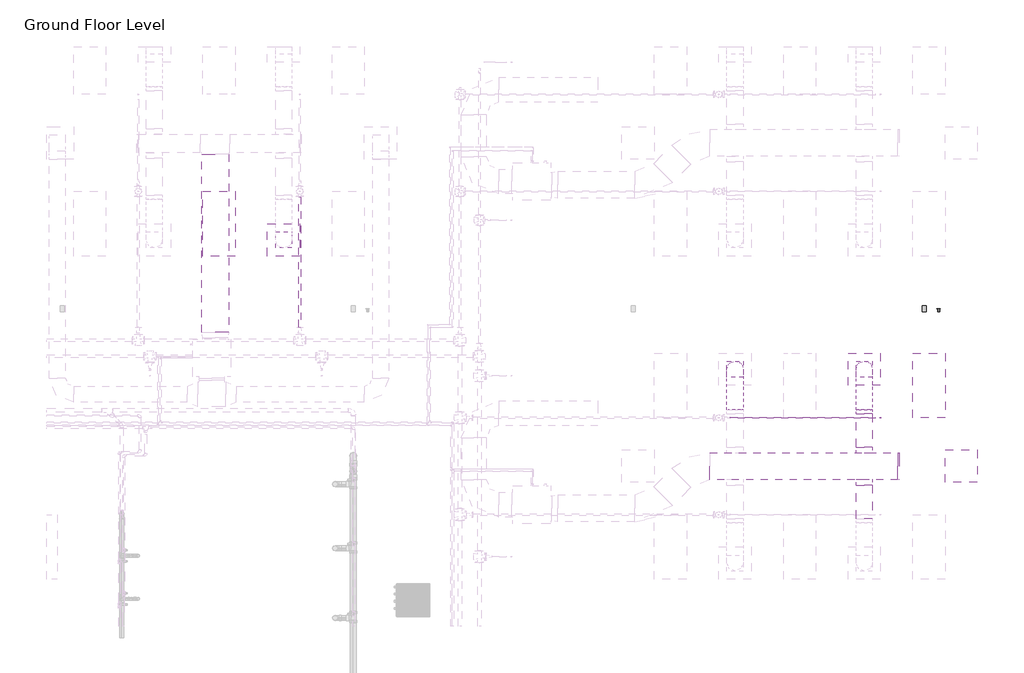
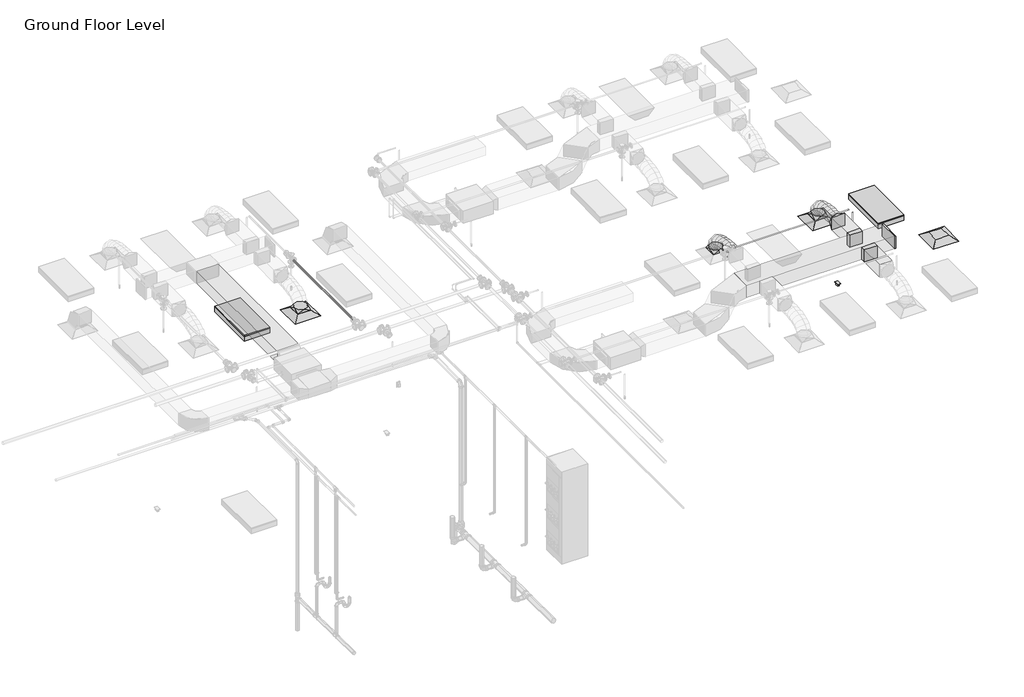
# One storey, part 70 of 74: 7 duct fittings, 6 duct segments, 3 air terminals, 3 pipe segments, 2 light fixtures, 1 fire suppression terminal, 1 proxy, 1 switching device.
"""IFC4 building model written with IfcOpenShell, lengths in millimetres."""

from ifc_helpers import new_model, si_unit, point, frame, frame_2d, origin, place, context, project, spatial, polyline, circle_curve, ellipse_curve, trimmed, segment, composite_curve, outline, extrude, transform, mapped, element, save
from ifc_brep_helpers import plane_surface, cylinder_surface, advanced_brep
from components import m_return_diffuser_600_x_600_face_300_x_300_connection_ff221211, m_duplex_receptacle_standard_10251bba, m_rectangular_endcap_standard_72d4d00d, m_rectangular_takeoff_standard_cb0ccb98, m_rectangular_takeoff_standard_2be5eba1, m_rectangular_to_round_transition_angle_45_degree_641efff0, m_sprinkler_dry_pendent_hosted_15_mm_dry_pendent_9bda8e11, m_troffer_light_parabolic_rectangular1_0600x1200mm_4_lamp_86473d4a

model = new_model("IFC4")

# Units and contexts
model_context = context("Model", 3, world=origin())
ifc_project = project(units=[si_unit("LENGTHUNIT", "METRE", prefix="MILLI")], contexts=[model_context])

# Site, building, storey
site = spatial("IfcSite", under=ifc_project)
building = spatial("IfcBuilding", under=site)
storey = spatial("IfcBuildingStorey", under=building, Name="Ground Floor Level", Elevation=900.0)

# Air terminals
placement = place(None, origin())
m_return_diffuser_600_x_600_face_300_x_300_connection_shape = m_return_diffuser_600_x_600_face_300_x_300_connection_ff221211(model_context)
element("IfcAirTerminal", 1, ObjectType="M_Return Diffuser : 600 x 600 Face 300 x 300 Connection", at=placement, inside=storey, context=model_context, shape_type="MappedRepresentation", body=[
    mapped(m_return_diffuser_600_x_600_face_300_x_300_connection_shape, transform((14942.7672395, 12735.2153534, 3650.0), x_axis=(1.0, 0.0, 0.0), y_axis=(0.0, 1.0, 0.0), z_axis=(0.0, 0.0, 1.0))),
])
element("IfcAirTerminal", 2, ObjectType="M_Supply Diffuser : 600 x 600 Face 300 x 300 Connection", at=placement, inside=storey, context=model_context, shape_type="MappedRepresentation", body=[
    mapped(m_return_diffuser_600_x_600_face_300_x_300_connection_shape, transform((2362.7672395, 16935.2153534, 3650.0), x_axis=(1.0, 0.0, 0.0), y_axis=(0.0, 1.0, 0.0), z_axis=(0.0, 0.0, 1.0))),
])
element("IfcAirTerminal", 3, ObjectType="M_Supply Diffuser : 600 x 600 Face 300 x 300 Connection", at=placement, inside=storey, context=model_context, shape_type="MappedRepresentation", body=[
    mapped(m_return_diffuser_600_x_600_face_300_x_300_connection_shape, transform((13142.7672395, 14535.2153534, 3650.0), x_axis=(1.0, 0.0, 0.0), y_axis=(0.0, 1.0, 0.0), z_axis=(0.0, 0.0, 1.0))),
])

# Proxy
m_duplex_receptacle_standard_shape = m_duplex_receptacle_standard_10251bba(model_context)
element("IfcBuildingElementProxy", 4, Name="M_Duplex Receptacle : Standard", ObjectType="M_Duplex Receptacle : Standard", at=placement, inside=storey, context=model_context, shape_type="MappedRepresentation", body=[
    mapped(m_duplex_receptacle_standard_shape, transform((14252.7672395, 15655.2153534, 1000.0), x_axis=(1.0, 0.0, 0.0), y_axis=(0.0, 1.0, 0.0), z_axis=(0.0, 0.0, 1.0))),
])

# Duct fittings
m_rectangular_endcap_standard_shape = m_rectangular_endcap_standard_72d4d00d(model_context)
element("IfcDuctFitting", 5, ObjectType="M_Rectangular Endcap : Standard", at=placement, inside=storey, context=model_context, shape_type="MappedRepresentation", body=[
    mapped(m_rectangular_endcap_standard_shape, transform((13766.7301365, 12735.2153534, 4100.0), x_axis=(1.0, 0.0, 0.0), y_axis=(0.0, 1.0, 0.0), z_axis=(0.0, 0.0, 1.0))),
])
m_rectangular_takeoff_standard_shape = m_rectangular_takeoff_standard_cb0ccb98(model_context)
element("IfcDuctFitting", 6, ObjectType="M_Rectangular Takeoff : Standard", at=placement, inside=storey, context=model_context, shape_type="MappedRepresentation", body=[
    mapped(m_rectangular_takeoff_standard_shape, transform((13142.7672395, 12985.2153534, 4100.0), x_axis=(0.0, 1.0, 0.0), y_axis=(1.0, 0.0, 0.0), z_axis=(0.0, 0.0, -1.0))),
])
m_rectangular_takeoff_standard_2_shape = m_rectangular_takeoff_standard_2be5eba1(model_context)
element("IfcDuctFitting", 7, ObjectType="M_Rectangular Takeoff : Standard", at=placement, inside=storey, context=model_context, shape_type="MappedRepresentation", body=[
    mapped(m_rectangular_takeoff_standard_2_shape, transform((13142.7672395, 12485.2153534, 4100.0), x_axis=(0.0, -1.0, 0.0), y_axis=(-1.0, 0.0, 0.0), z_axis=(0.0, 0.0, -1.0))),
])
m_rectangular_to_round_transition_angle_45_degree_shape = m_rectangular_to_round_transition_angle_45_degree_641efff0(model_context)
element("IfcDuctFitting", 8, ObjectType="M_Rectangular to Round Transition - Angle : 45 Degree", at=placement, inside=storey, context=model_context, shape_type="MappedRepresentation", body=[
    mapped(m_rectangular_to_round_transition_angle_45_degree_shape, transform((2362.7672395, 16935.2153534, 3751.6), x_axis=(0.0, 0.0, 1.0), y_axis=(-1.0, 0.0, 0.0), z_axis=(0.0, -1.0, 0.0))),
])
element("IfcDuctFitting", 9, ObjectType="M_Rectangular to Round Transition - Angle : 45 Degree", at=placement, inside=storey, context=model_context, shape_type="MappedRepresentation", body=[
    mapped(m_rectangular_to_round_transition_angle_45_degree_shape, transform((10742.7672395, 14535.2153534, 3751.6), x_axis=(0.0, 0.0, 1.0), y_axis=(-1.0, 0.0, 0.0), z_axis=(0.0, -1.0, 0.0))),
])
element("IfcDuctFitting", 10, ObjectType="M_Rectangular to Round Transition - Angle : 45 Degree", at=placement, inside=storey, context=model_context, shape_type="MappedRepresentation", body=[
    mapped(m_rectangular_to_round_transition_angle_45_degree_shape, transform((13142.7672395, 14535.2153534, 3751.6), x_axis=(0.0, 0.0, 1.0), y_axis=(-1.0, 0.0, 0.0), z_axis=(0.0, -1.0, 0.0))),
])
element("IfcDuctFitting", 11, ObjectType="M_Rectangular to Round Transition - Angle : 45 Degree", at=placement, inside=storey, context=model_context, shape_type="MappedRepresentation", body=[
    mapped(m_rectangular_to_round_transition_angle_45_degree_shape, transform((13142.7672395, 13707.8794221, 4100.0), x_axis=(0.0, 1.0, 0.0), y_axis=(-1.0, 0.0, 0.0), z_axis=(0.0, 0.0, 1.0))),
])

# Duct segments
element("IfcDuctSegment", 12, ObjectType="Flex - Round", at=placement, inside=storey, context=model_context, shape_type="AdvancedBrep", body=[
    advanced_brep(
    [(10892.7672395, 14535.2153534, 3826.6), (10742.7672395, 14385.2153534, 3826.6), (10592.7672395, 14535.2153534, 3826.6), (10742.7672395, 14685.2153534, 3826.6), (10892.7672395, 14535.2153534, 3857.9377114), (10742.7672395, 14385.2153534, 3832.2944892), (10592.7672395, 14535.2153534, 3857.9377114), (10742.7672395, 14685.2153534, 3883.5809337), (10892.7672395, 14518.1994208, 3906.2505728), (10742.7672395, 14384.4614419, 3834.435049), (10592.7672395, 14518.1994208, 3906.2505728), (10742.7672395, 14651.9373998, 3978.0660967), (10892.7672395, 14471.0155405, 3968.7113131), (10742.7672395, 14366.8096412, 3857.8020236), (10592.7672395, 14471.0155405, 3968.7113131), (10742.7672395, 14575.2214397, 4079.6206026), (10892.7672395, 14399.4595883, 4016.0700639), (10742.7672395, 14330.5255327, 3881.8163788), (10592.7672395, 14399.4595883, 4016.0700639), (10742.7672395, 14468.3936439, 4150.3237489), (10892.7672395, 14309.3274403, 4050.4146682), (10742.7672395, 14265.7666771, 3906.4925606), (10592.7672395, 14309.3274403, 4050.4146682), (10742.7672395, 14352.8882035, 4194.3367758), (10892.7672395, 14206.4149725, 4073.8329691), (10742.7672395, 14179.8540485, 3926.0424542), (10592.7672395, 14206.4149725, 4073.8329691), (10742.7672395, 14232.9758965, 4221.6234841), (10892.7672395, 14096.5180607, 4088.4128097), (10742.7672395, 14081.3671584, 3939.1085462), (10592.7672395, 14096.5180607, 4088.4128097), (10742.7672395, 14111.6689631, 4237.7170733), (10892.7672395, 13985.4325811, 4096.242033), (10742.7672395, 13977.9272529, 3946.398915), (10592.7672395, 13985.4325811, 4096.242033), (10742.7672395, 13992.9379093, 4246.085151), (10892.7672395, 13878.9544096, 4099.4084821), (10742.7672395, 13876.2629165, 3949.4222102), (10592.7672395, 13878.9544096, 4099.4084821), (10742.7672395, 13881.6459027, 4249.394754), (10892.7672395, 13782.8794221, 4100.0), (10742.7672395, 13783.8029299, 4249.9971571), (10592.7672395, 13782.8794221, 4100.0), (10742.7672395, 13781.9559143, 3950.0028429)],
    [
        (0, 1, circle_curve(frame((10742.7672395, 14535.2153534, 3826.6), z_axis=(0.0, 0.0, -1.0), x_axis=(1.0, 0.0, 0.0)), 150.0)),
        (1, 2, circle_curve(frame((10742.7672395, 14535.2153534, 3826.6), z_axis=(0.0, 0.0, -1.0), x_axis=(1.0, 0.0, 0.0)), 150.0)),
        (2, 3, circle_curve(frame((10742.7672395, 14535.2153534, 3826.6), z_axis=(0.0, 0.0, -1.0), x_axis=(1.0, 0.0, 0.0)), 150.0)),
        (3, 0, circle_curve(frame((10742.7672395, 14535.2153534, 3826.6), z_axis=(0.0, 0.0, -1.0), x_axis=(1.0, 0.0, 0.0)), 150.0)),
        (0, 4),
        (4, 5, ellipse_curve(frame((10742.7672395, 14535.2153534, 3857.9377114), z_axis=(0.0, 0.16851014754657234, -0.9856999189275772), x_axis=(0.0, -0.9856999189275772, -0.1685101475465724)), 152.176131, 150.0)),
        (5, 1),
        (5, 6, ellipse_curve(frame((10742.7672395, 14535.2153534, 3857.9377114), z_axis=(0.0, 0.16851014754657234, -0.9856999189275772), x_axis=(0.0, -0.9856999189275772, -0.1685101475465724)), 152.176131, 150.0)),
        (6, 2),
        (6, 7, ellipse_curve(frame((10742.7672395, 14535.2153534, 3857.9377114), z_axis=(0.0, 0.16851014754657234, -0.9856999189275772), x_axis=(0.0, -0.9856999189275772, -0.1685101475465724)), 152.176131, 150.0)),
        (7, 3),
        (7, 4, ellipse_curve(frame((10742.7672395, 14535.2153534, 3857.9377114), z_axis=(0.0, 0.16851014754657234, -0.9856999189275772), x_axis=(0.0, -0.9856999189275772, -0.1685101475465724)), 152.176131, 150.0)),
        (4, 8),
        (8, 9, ellipse_curve(frame((10742.7672395, 14518.1994208, 3906.2505728), z_axis=(0.0, 0.47309225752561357, -0.8810128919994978), x_axis=(0.0, -0.8810128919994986, -0.47309225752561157)), 151.8002519, 150.0)),
        (9, 5),
        (9, 10, ellipse_curve(frame((10742.7672395, 14518.1994208, 3906.2505728), z_axis=(0.0, 0.47309225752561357, -0.8810128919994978), x_axis=(0.0, -0.8810128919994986, -0.47309225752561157)), 151.8002519, 150.0)),
        (10, 6),
        (10, 11, ellipse_curve(frame((10742.7672395, 14518.1994208, 3906.2505728), z_axis=(0.0, 0.47309225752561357, -0.8810128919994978), x_axis=(0.0, -0.8810128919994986, -0.47309225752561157)), 151.8002519, 150.0)),
        (11, 7),
        (11, 8, ellipse_curve(frame((10742.7672395, 14518.1994208, 3906.2505728), z_axis=(0.0, 0.47309225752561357, -0.8810128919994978), x_axis=(0.0, -0.8810128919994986, -0.47309225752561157)), 151.8002519, 150.0)),
        (8, 12),
        (12, 13, ellipse_curve(frame((10742.7672395, 14471.0155405, 3968.7113131), z_axis=(0.0, 0.7287877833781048, -0.6847396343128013), x_axis=(0.0, -0.6847396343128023, -0.7287877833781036)), 152.1832446, 150.0)),
        (13, 9),
        (13, 14, ellipse_curve(frame((10742.7672395, 14471.0155405, 3968.7113131), z_axis=(0.0, 0.7287877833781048, -0.6847396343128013), x_axis=(0.0, -0.6847396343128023, -0.7287877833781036)), 152.1832446, 150.0)),
        (14, 10),
        (14, 15, ellipse_curve(frame((10742.7672395, 14471.0155405, 3968.7113131), z_axis=(0.0, 0.7287877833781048, -0.6847396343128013), x_axis=(0.0, -0.6847396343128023, -0.7287877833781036)), 152.1832446, 150.0)),
        (15, 11),
        (15, 12, ellipse_curve(frame((10742.7672395, 14471.0155405, 3968.7113131), z_axis=(0.0, 0.7287877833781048, -0.6847396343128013), x_axis=(0.0, -0.6847396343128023, -0.7287877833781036)), 152.1832446, 150.0)),
        (12, 16),
        (16, 17, ellipse_curve(frame((10742.7672395, 14399.4595883, 4016.0700639), z_axis=(0.0, 0.8895859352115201, -0.45676784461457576), x_axis=(0.0, -0.45676784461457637, -0.8895859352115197)), 150.91705, 150.0)),
        (17, 13),
        (17, 18, ellipse_curve(frame((10742.7672395, 14399.4595883, 4016.0700639), z_axis=(0.0, 0.8895859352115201, -0.45676784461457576), x_axis=(0.0, -0.45676784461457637, -0.8895859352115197)), 150.91705, 150.0)),
        (18, 14),
        (18, 19, ellipse_curve(frame((10742.7672395, 14399.4595883, 4016.0700639), z_axis=(0.0, 0.8895859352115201, -0.45676784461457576), x_axis=(0.0, -0.45676784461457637, -0.8895859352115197)), 150.91705, 150.0)),
        (19, 15),
        (19, 16, ellipse_curve(frame((10742.7672395, 14399.4595883, 4016.0700639), z_axis=(0.0, 0.8895859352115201, -0.45676784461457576), x_axis=(0.0, -0.45676784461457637, -0.8895859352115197)), 150.91705, 150.0)),
        (16, 20),
        (20, 21, ellipse_curve(frame((10742.7672395, 14309.3274403, 4050.4146682), z_axis=(0.0, 0.9571203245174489, -0.2896906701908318), x_axis=(0.0, -0.28969067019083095, -0.9571203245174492)), 150.369921, 150.0)),
        (21, 17),
        (21, 22, ellipse_curve(frame((10742.7672395, 14309.3274403, 4050.4146682), z_axis=(0.0, 0.9571203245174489, -0.2896906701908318), x_axis=(0.0, -0.28969067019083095, -0.9571203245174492)), 150.369921, 150.0)),
        (22, 18),
        (22, 23, ellipse_curve(frame((10742.7672395, 14309.3274403, 4050.4146682), z_axis=(0.0, 0.9571203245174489, -0.2896906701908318), x_axis=(0.0, -0.28969067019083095, -0.9571203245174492)), 150.369921, 150.0)),
        (23, 19),
        (23, 20, ellipse_curve(frame((10742.7672395, 14309.3274403, 4050.4146682), z_axis=(0.0, 0.9571203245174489, -0.2896906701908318), x_axis=(0.0, -0.28969067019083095, -0.9571203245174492)), 150.369921, 150.0)),
        (20, 24),
        (24, 25, ellipse_curve(frame((10742.7672395, 14206.4149725, 4073.8329691), z_axis=(0.0, 0.9842313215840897, -0.17688613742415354), x_axis=(0.0, -0.1768861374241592, -0.9842313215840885)), 150.1583131, 150.0)),
        (25, 21),
        (25, 26, ellipse_curve(frame((10742.7672395, 14206.4149725, 4073.8329691), z_axis=(0.0, 0.9842313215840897, -0.17688613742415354), x_axis=(0.0, -0.1768861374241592, -0.9842313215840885)), 150.1583131, 150.0)),
        (26, 22),
        (26, 27, ellipse_curve(frame((10742.7672395, 14206.4149725, 4073.8329691), z_axis=(0.0, 0.9842313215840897, -0.17688613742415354), x_axis=(0.0, -0.1768861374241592, -0.9842313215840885)), 150.1583131, 150.0)),
        (27, 23),
        (27, 24, ellipse_curve(frame((10742.7672395, 14206.4149725, 4073.8329691), z_axis=(0.0, 0.9842313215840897, -0.17688613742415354), x_axis=(0.0, -0.1768861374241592, -0.9842313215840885)), 150.1583131, 150.0)),
        (24, 28),
        (28, 29, ellipse_curve(frame((10742.7672395, 14096.5180607, 4088.4128097), z_axis=(0.0, 0.9948906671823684, -0.10095821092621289), x_axis=(0.0, -0.10095821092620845, -0.9948906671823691)), 150.0710264, 150.0)),
        (29, 25),
        (29, 30, ellipse_curve(frame((10742.7672395, 14096.5180607, 4088.4128097), z_axis=(0.0, 0.9948906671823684, -0.10095821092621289), x_axis=(0.0, -0.10095821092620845, -0.9948906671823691)), 150.0710264, 150.0)),
        (30, 26),
        (30, 31, ellipse_curve(frame((10742.7672395, 14096.5180607, 4088.4128097), z_axis=(0.0, 0.9948906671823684, -0.10095821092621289), x_axis=(0.0, -0.10095821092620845, -0.9948906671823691)), 150.0710264, 150.0)),
        (31, 27),
        (31, 28, ellipse_curve(frame((10742.7672395, 14096.5180607, 4088.4128097), z_axis=(0.0, 0.9948906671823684, -0.10095821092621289), x_axis=(0.0, -0.10095821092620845, -0.9948906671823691)), 150.0710264, 150.0)),
        (28, 32),
        (32, 33, ellipse_curve(frame((10742.7672395, 13985.4325811, 4096.242033), z_axis=(0.0, 0.9987479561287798, -0.050025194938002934), x_axis=(0.0, -0.05002519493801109, -0.9987479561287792)), 150.0309634, 150.0)),
        (33, 29),
        (33, 34, ellipse_curve(frame((10742.7672395, 13985.4325811, 4096.242033), z_axis=(0.0, 0.9987479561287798, -0.050025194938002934), x_axis=(0.0, -0.05002519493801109, -0.9987479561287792)), 150.0309634, 150.0)),
        (34, 30),
        (34, 35, ellipse_curve(frame((10742.7672395, 13985.4325811, 4096.242033), z_axis=(0.0, 0.9987479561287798, -0.050025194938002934), x_axis=(0.0, -0.05002519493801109, -0.9987479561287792)), 150.0309634, 150.0)),
        (35, 31),
        (35, 32, ellipse_curve(frame((10742.7672395, 13985.4325811, 4096.242033), z_axis=(0.0, 0.9987479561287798, -0.050025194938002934), x_axis=(0.0, -0.05002519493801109, -0.9987479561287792)), 150.0309634, 150.0)),
        (32, 36),
        (36, 37, ellipse_curve(frame((10742.7672395, 13878.9544096, 4099.4084821), z_axis=(0.0, 0.9998390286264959, -0.017942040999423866), x_axis=(0.0, -0.017942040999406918, -0.9998390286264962)), 150.0104193, 150.0)),
        (37, 33),
        (37, 38, ellipse_curve(frame((10742.7672395, 13878.9544096, 4099.4084821), z_axis=(0.0, 0.9998390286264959, -0.017942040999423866), x_axis=(0.0, -0.017942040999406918, -0.9998390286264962)), 150.0104193, 150.0)),
        (38, 34),
        (38, 39, ellipse_curve(frame((10742.7672395, 13878.9544096, 4099.4084821), z_axis=(0.0, 0.9998390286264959, -0.017942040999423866), x_axis=(0.0, -0.017942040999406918, -0.9998390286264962)), 150.0104193, 150.0)),
        (39, 35),
        (39, 36, ellipse_curve(frame((10742.7672395, 13878.9544096, 4099.4084821), z_axis=(0.0, 0.9998390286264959, -0.017942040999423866), x_axis=(0.0, -0.017942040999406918, -0.9998390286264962)), 150.0104193, 150.0)),
        (40, 41, circle_curve(frame((10742.7672395, 13782.8794221, 4100.0), z_axis=(0.0, -0.9999810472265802, 0.006156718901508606), x_axis=(1.0, 0.0, 0.0)), 150.0)),
        (41, 42, circle_curve(frame((10742.7672395, 13782.8794221, 4100.0), z_axis=(0.0, -0.9999810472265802, 0.006156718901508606), x_axis=(1.0, 0.0, 0.0)), 150.0)),
        (42, 43, circle_curve(frame((10742.7672395, 13782.8794221, 4100.0), z_axis=(0.0, -0.9999810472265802, 0.006156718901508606), x_axis=(1.0, 0.0, 0.0)), 150.0)),
        (43, 40, circle_curve(frame((10742.7672395, 13782.8794221, 4100.0), z_axis=(0.0, -0.9999810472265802, 0.006156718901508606), x_axis=(1.0, 0.0, 0.0)), 150.0)),
        (36, 40),
        (43, 37),
        (42, 38),
        (41, 39),
    ],
    [
        plane_surface(frame((10742.7672395, 14385.2153534, 3826.6), z_axis=(0.0, 0.0, -1.0), x_axis=(1.0, 0.0, 0.0))),
        cylinder_surface(frame((10742.7672395, 14535.2153534, 3826.6), z_axis=(0.0, 0.0, -1.0), x_axis=(1.0, 0.0, 0.0)), 150.0),
        cylinder_surface(frame((10742.7672395, 14535.2153534, 3857.9377114), z_axis=(0.0, 0.3322008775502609, -0.9432086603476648), x_axis=(1.0, 0.0, 0.0)), 150.0),
        cylinder_surface(frame((10742.7672395, 14518.1994208, 3906.2505728), z_axis=(0.0, 0.6027625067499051, -0.7979206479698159), x_axis=(1.0, 0.0, 0.0)), 150.0),
        cylinder_surface(frame((10742.7672395, 14471.0155405, 3968.7113131), z_axis=(0.0, 0.833902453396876, -0.5519118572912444), x_axis=(1.0, 0.0, 0.0)), 150.0),
        cylinder_surface(frame((10742.7672395, 14399.4595883, 4016.0700639), z_axis=(0.0, 0.9344582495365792, -0.35607271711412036), x_axis=(1.0, 0.0, 0.0)), 150.0),
        cylinder_surface(frame((10742.7672395, 14309.3274403, 4050.4146682), z_axis=(0.0, 0.9750732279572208, -0.22188330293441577), x_axis=(1.0, 0.0, 0.0)), 150.0),
        cylinder_surface(frame((10742.7672395, 14206.4149725, 4073.8329691), z_axis=(0.0, 0.9913140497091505, -0.131515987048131), x_axis=(1.0, 0.0, 0.0)), 150.0),
        cylinder_surface(frame((10742.7672395, 14096.5180607, 4088.4128097), z_axis=(0.0, 0.9975255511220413, -0.07030487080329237), x_axis=(1.0, 0.0, 0.0)), 150.0),
        cylinder_surface(frame((10742.7672395, 13985.4325811, 4096.242033), z_axis=(0.0, 0.9995581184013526, -0.029724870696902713), x_axis=(1.0, 0.0, 0.0)), 150.0),
        plane_surface(frame((10742.7672395, 13781.9559143, 3950.0028429), z_axis=(0.0, -0.9999810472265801, 0.0061567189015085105), x_axis=(1.0, 0.0, 0.0))),
        cylinder_surface(frame((10742.7672395, 13878.9544096, 4099.4084821), z_axis=(0.0, 0.9999810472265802, -0.006156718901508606), x_axis=(1.0, 0.0, 0.0)), 150.0),
    ],
    [
        (0, [[1, 2, 3, 4]]),
        (1, [[-1, 5, 6, 7]]),
        (1, [[-2, -7, 8, 9]]),
        (1, [[-3, -9, 10, 11]]),
        (1, [[-4, -11, 12, -5]]),
        (2, [[-6, 13, 14, 15]]),
        (2, [[-8, -15, 16, 17]]),
        (2, [[-10, -17, 18, 19]]),
        (2, [[-12, -19, 20, -13]]),
        (3, [[-14, 21, 22, 23]]),
        (3, [[-16, -23, 24, 25]]),
        (3, [[-18, -25, 26, 27]]),
        (3, [[-20, -27, 28, -21]]),
        (4, [[-22, 29, 30, 31]]),
        (4, [[-24, -31, 32, 33]]),
        (4, [[-26, -33, 34, 35]]),
        (4, [[-28, -35, 36, -29]]),
        (5, [[-30, 37, 38, 39]]),
        (5, [[-32, -39, 40, 41]]),
        (5, [[-34, -41, 42, 43]]),
        (5, [[-36, -43, 44, -37]]),
        (6, [[-38, 45, 46, 47]]),
        (6, [[-40, -47, 48, 49]]),
        (6, [[-42, -49, 50, 51]]),
        (6, [[-44, -51, 52, -45]]),
        (7, [[-46, 53, 54, 55]]),
        (7, [[-48, -55, 56, 57]]),
        (7, [[-50, -57, 58, 59]]),
        (7, [[-52, -59, 60, -53]]),
        (8, [[-54, 61, 62, 63]]),
        (8, [[-56, -63, 64, 65]]),
        (8, [[-58, -65, 66, 67]]),
        (8, [[-60, -67, 68, -61]]),
        (9, [[-62, 69, 70, 71]]),
        (9, [[-64, -71, 72, 73]]),
        (9, [[-66, -73, 74, 75]]),
        (9, [[-68, -75, 76, -69]]),
        (10, [[77, 78, 79, 80]]),
        (11, [[-70, 81, -80, 82]]),
        (11, [[-72, -82, -79, 83]]),
        (11, [[-74, -83, -78, 84]]),
        (11, [[-76, -84, -77, -81]]),
    ],
),
])
element("IfcDuctSegment", 13, ObjectType="Flex - Round", at=placement, inside=storey, context=model_context, shape_type="AdvancedBrep", body=[
    advanced_brep(
    [(13292.7672395, 14535.2153534, 3826.6), (13142.7672395, 14385.2153534, 3826.6), (12992.7672395, 14535.2153534, 3826.6), (13142.7672395, 14685.2153534, 3826.6), (13292.7672395, 14535.2153534, 3857.9377114), (13142.7672395, 14385.2153534, 3832.2944892), (12992.7672395, 14535.2153534, 3857.9377114), (13142.7672395, 14685.2153534, 3883.5809337), (13292.7672395, 14518.1994208, 3906.2505728), (13142.7672395, 14384.4614419, 3834.435049), (12992.7672395, 14518.1994208, 3906.2505728), (13142.7672395, 14651.9373998, 3978.0660967), (13292.7672395, 14471.0155405, 3968.7113131), (13142.7672395, 14366.8096412, 3857.8020236), (12992.7672395, 14471.0155405, 3968.7113131), (13142.7672395, 14575.2214397, 4079.6206026), (13292.7672395, 14399.4595883, 4016.0700639), (13142.7672395, 14330.5255327, 3881.8163788), (12992.7672395, 14399.4595883, 4016.0700639), (13142.7672395, 14468.3936439, 4150.3237489), (13292.7672395, 14309.3274403, 4050.4146682), (13142.7672395, 14265.7666771, 3906.4925606), (12992.7672395, 14309.3274403, 4050.4146682), (13142.7672395, 14352.8882035, 4194.3367758), (13292.7672395, 14206.4149725, 4073.8329691), (13142.7672395, 14179.8540485, 3926.0424542), (12992.7672395, 14206.4149725, 4073.8329691), (13142.7672395, 14232.9758965, 4221.6234841), (13292.7672395, 14096.5180607, 4088.4128097), (13142.7672395, 14081.3671584, 3939.1085462), (12992.7672395, 14096.5180607, 4088.4128097), (13142.7672395, 14111.6689631, 4237.7170733), (13292.7672395, 13985.4325811, 4096.242033), (13142.7672395, 13977.9272529, 3946.398915), (12992.7672395, 13985.4325811, 4096.242033), (13142.7672395, 13992.9379093, 4246.085151), (13292.7672395, 13878.9544096, 4099.4084821), (13142.7672395, 13876.2629165, 3949.4222102), (12992.7672395, 13878.9544096, 4099.4084821), (13142.7672395, 13881.6459027, 4249.394754), (13292.7672395, 13782.8794221, 4100.0), (13142.7672395, 13783.8029299, 4249.9971571), (12992.7672395, 13782.8794221, 4100.0), (13142.7672395, 13781.9559143, 3950.0028429)],
    [
        (0, 1, circle_curve(frame((13142.7672395, 14535.2153534, 3826.6), z_axis=(0.0, 0.0, -1.0), x_axis=(1.0, 0.0, 0.0)), 150.0)),
        (1, 2, circle_curve(frame((13142.7672395, 14535.2153534, 3826.6), z_axis=(0.0, 0.0, -1.0), x_axis=(1.0, 0.0, 0.0)), 150.0)),
        (2, 3, circle_curve(frame((13142.7672395, 14535.2153534, 3826.6), z_axis=(0.0, 0.0, -1.0), x_axis=(1.0, 0.0, 0.0)), 150.0)),
        (3, 0, circle_curve(frame((13142.7672395, 14535.2153534, 3826.6), z_axis=(0.0, 0.0, -1.0), x_axis=(1.0, 0.0, 0.0)), 150.0)),
        (0, 4),
        (4, 5, ellipse_curve(frame((13142.7672395, 14535.2153534, 3857.9377114), z_axis=(0.0, 0.16851014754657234, -0.9856999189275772), x_axis=(0.0, -0.9856999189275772, -0.1685101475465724)), 152.176131, 150.0)),
        (5, 1),
        (5, 6, ellipse_curve(frame((13142.7672395, 14535.2153534, 3857.9377114), z_axis=(0.0, 0.16851014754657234, -0.9856999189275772), x_axis=(0.0, -0.9856999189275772, -0.1685101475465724)), 152.176131, 150.0)),
        (6, 2),
        (6, 7, ellipse_curve(frame((13142.7672395, 14535.2153534, 3857.9377114), z_axis=(0.0, 0.16851014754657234, -0.9856999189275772), x_axis=(0.0, -0.9856999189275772, -0.1685101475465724)), 152.176131, 150.0)),
        (7, 3),
        (7, 4, ellipse_curve(frame((13142.7672395, 14535.2153534, 3857.9377114), z_axis=(0.0, 0.16851014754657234, -0.9856999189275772), x_axis=(0.0, -0.9856999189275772, -0.1685101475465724)), 152.176131, 150.0)),
        (4, 8),
        (8, 9, ellipse_curve(frame((13142.7672395, 14518.1994208, 3906.2505728), z_axis=(0.0, 0.47309225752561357, -0.8810128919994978), x_axis=(0.0, -0.8810128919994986, -0.47309225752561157)), 151.8002519, 150.0)),
        (9, 5),
        (9, 10, ellipse_curve(frame((13142.7672395, 14518.1994208, 3906.2505728), z_axis=(0.0, 0.47309225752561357, -0.8810128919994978), x_axis=(0.0, -0.8810128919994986, -0.47309225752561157)), 151.8002519, 150.0)),
        (10, 6),
        (10, 11, ellipse_curve(frame((13142.7672395, 14518.1994208, 3906.2505728), z_axis=(0.0, 0.47309225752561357, -0.8810128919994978), x_axis=(0.0, -0.8810128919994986, -0.47309225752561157)), 151.8002519, 150.0)),
        (11, 7),
        (11, 8, ellipse_curve(frame((13142.7672395, 14518.1994208, 3906.2505728), z_axis=(0.0, 0.47309225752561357, -0.8810128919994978), x_axis=(0.0, -0.8810128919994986, -0.47309225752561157)), 151.8002519, 150.0)),
        (8, 12),
        (12, 13, ellipse_curve(frame((13142.7672395, 14471.0155405, 3968.7113131), z_axis=(0.0, 0.7287877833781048, -0.6847396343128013), x_axis=(0.0, -0.6847396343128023, -0.7287877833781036)), 152.1832446, 150.0)),
        (13, 9),
        (13, 14, ellipse_curve(frame((13142.7672395, 14471.0155405, 3968.7113131), z_axis=(0.0, 0.7287877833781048, -0.6847396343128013), x_axis=(0.0, -0.6847396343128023, -0.7287877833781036)), 152.1832446, 150.0)),
        (14, 10),
        (14, 15, ellipse_curve(frame((13142.7672395, 14471.0155405, 3968.7113131), z_axis=(0.0, 0.7287877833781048, -0.6847396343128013), x_axis=(0.0, -0.6847396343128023, -0.7287877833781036)), 152.1832446, 150.0)),
        (15, 11),
        (15, 12, ellipse_curve(frame((13142.7672395, 14471.0155405, 3968.7113131), z_axis=(0.0, 0.7287877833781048, -0.6847396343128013), x_axis=(0.0, -0.6847396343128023, -0.7287877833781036)), 152.1832446, 150.0)),
        (12, 16),
        (16, 17, ellipse_curve(frame((13142.7672395, 14399.4595883, 4016.0700639), z_axis=(0.0, 0.8895859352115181, -0.4567678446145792), x_axis=(0.0, -0.4567678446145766, -0.8895859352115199)), 150.91705, 150.0)),
        (17, 13),
        (17, 18, ellipse_curve(frame((13142.7672395, 14399.4595883, 4016.0700639), z_axis=(0.0, 0.8895859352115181, -0.4567678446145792), x_axis=(0.0, -0.4567678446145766, -0.8895859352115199)), 150.91705, 150.0)),
        (18, 14),
        (18, 19, ellipse_curve(frame((13142.7672395, 14399.4595883, 4016.0700639), z_axis=(0.0, 0.8895859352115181, -0.4567678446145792), x_axis=(0.0, -0.4567678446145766, -0.8895859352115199)), 150.91705, 150.0)),
        (19, 15),
        (19, 16, ellipse_curve(frame((13142.7672395, 14399.4595883, 4016.0700639), z_axis=(0.0, 0.8895859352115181, -0.4567678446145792), x_axis=(0.0, -0.4567678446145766, -0.8895859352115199)), 150.91705, 150.0)),
        (16, 20),
        (20, 21, ellipse_curve(frame((13142.7672395, 14309.3274403, 4050.4146682), z_axis=(0.0, 0.9571203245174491, -0.2896906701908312), x_axis=(0.0, -0.2896906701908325, -0.9571203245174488)), 150.369921, 150.0)),
        (21, 17),
        (21, 22, ellipse_curve(frame((13142.7672395, 14309.3274403, 4050.4146682), z_axis=(0.0, 0.9571203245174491, -0.2896906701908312), x_axis=(0.0, -0.2896906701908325, -0.9571203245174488)), 150.369921, 150.0)),
        (22, 18),
        (22, 23, ellipse_curve(frame((13142.7672395, 14309.3274403, 4050.4146682), z_axis=(0.0, 0.9571203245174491, -0.2896906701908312), x_axis=(0.0, -0.2896906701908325, -0.9571203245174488)), 150.369921, 150.0)),
        (23, 19),
        (23, 20, ellipse_curve(frame((13142.7672395, 14309.3274403, 4050.4146682), z_axis=(0.0, 0.9571203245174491, -0.2896906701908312), x_axis=(0.0, -0.2896906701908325, -0.9571203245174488)), 150.369921, 150.0)),
        (20, 24),
        (24, 25, ellipse_curve(frame((13142.7672395, 14206.4149725, 4073.8329691), z_axis=(0.0, 0.9842313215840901, -0.17688613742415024), x_axis=(0.0, -0.1768861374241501, -0.9842313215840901)), 150.1583131, 150.0)),
        (25, 21),
        (25, 26, ellipse_curve(frame((13142.7672395, 14206.4149725, 4073.8329691), z_axis=(0.0, 0.9842313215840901, -0.17688613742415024), x_axis=(0.0, -0.1768861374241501, -0.9842313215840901)), 150.1583131, 150.0)),
        (26, 22),
        (26, 27, ellipse_curve(frame((13142.7672395, 14206.4149725, 4073.8329691), z_axis=(0.0, 0.9842313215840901, -0.17688613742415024), x_axis=(0.0, -0.1768861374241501, -0.9842313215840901)), 150.1583131, 150.0)),
        (27, 23),
        (27, 24, ellipse_curve(frame((13142.7672395, 14206.4149725, 4073.8329691), z_axis=(0.0, 0.9842313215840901, -0.17688613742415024), x_axis=(0.0, -0.1768861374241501, -0.9842313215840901)), 150.1583131, 150.0)),
        (24, 28),
        (28, 29, ellipse_curve(frame((13142.7672395, 14096.5180607, 4088.4128097), z_axis=(0.0, 0.9948906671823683, -0.10095821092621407), x_axis=(0.0, -0.10095821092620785, -0.994890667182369)), 150.0710264, 150.0)),
        (29, 25),
        (29, 30, ellipse_curve(frame((13142.7672395, 14096.5180607, 4088.4128097), z_axis=(0.0, 0.9948906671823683, -0.10095821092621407), x_axis=(0.0, -0.10095821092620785, -0.994890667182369)), 150.0710264, 150.0)),
        (30, 26),
        (30, 31, ellipse_curve(frame((13142.7672395, 14096.5180607, 4088.4128097), z_axis=(0.0, 0.9948906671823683, -0.10095821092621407), x_axis=(0.0, -0.10095821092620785, -0.994890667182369)), 150.0710264, 150.0)),
        (31, 27),
        (31, 28, ellipse_curve(frame((13142.7672395, 14096.5180607, 4088.4128097), z_axis=(0.0, 0.9948906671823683, -0.10095821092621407), x_axis=(0.0, -0.10095821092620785, -0.994890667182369)), 150.0710264, 150.0)),
        (28, 32),
        (32, 33, ellipse_curve(frame((13142.7672395, 13985.4325811, 4096.242033), z_axis=(0.0, 0.9987479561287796, -0.05002519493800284), x_axis=(0.0, -0.05002519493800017, -0.9987479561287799)), 150.0309634, 150.0)),
        (33, 29),
        (33, 34, ellipse_curve(frame((13142.7672395, 13985.4325811, 4096.242033), z_axis=(0.0, 0.9987479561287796, -0.05002519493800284), x_axis=(0.0, -0.05002519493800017, -0.9987479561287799)), 150.0309634, 150.0)),
        (34, 30),
        (34, 35, ellipse_curve(frame((13142.7672395, 13985.4325811, 4096.242033), z_axis=(0.0, 0.9987479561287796, -0.05002519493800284), x_axis=(0.0, -0.05002519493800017, -0.9987479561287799)), 150.0309634, 150.0)),
        (35, 31),
        (35, 32, ellipse_curve(frame((13142.7672395, 13985.4325811, 4096.242033), z_axis=(0.0, 0.9987479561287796, -0.05002519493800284), x_axis=(0.0, -0.05002519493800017, -0.9987479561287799)), 150.0309634, 150.0)),
        (32, 36),
        (36, 37, ellipse_curve(frame((13142.7672395, 13878.9544096, 4099.4084821), z_axis=(0.0, 0.9998390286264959, -0.01794204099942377), x_axis=(0.0, -0.01794204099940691, -0.9998390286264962)), 150.0104193, 150.0)),
        (37, 33),
        (37, 38, ellipse_curve(frame((13142.7672395, 13878.9544096, 4099.4084821), z_axis=(0.0, 0.9998390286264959, -0.01794204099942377), x_axis=(0.0, -0.01794204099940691, -0.9998390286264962)), 150.0104193, 150.0)),
        (38, 34),
        (38, 39, ellipse_curve(frame((13142.7672395, 13878.9544096, 4099.4084821), z_axis=(0.0, 0.9998390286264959, -0.01794204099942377), x_axis=(0.0, -0.01794204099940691, -0.9998390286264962)), 150.0104193, 150.0)),
        (39, 35),
        (39, 36, ellipse_curve(frame((13142.7672395, 13878.9544096, 4099.4084821), z_axis=(0.0, 0.9998390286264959, -0.01794204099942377), x_axis=(0.0, -0.01794204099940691, -0.9998390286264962)), 150.0104193, 150.0)),
        (40, 41, circle_curve(frame((13142.7672395, 13782.8794221, 4100.0), z_axis=(0.0, -0.9999810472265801, 0.006156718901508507), x_axis=(1.0, 0.0, 0.0)), 150.0)),
        (41, 42, circle_curve(frame((13142.7672395, 13782.8794221, 4100.0), z_axis=(0.0, -0.9999810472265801, 0.006156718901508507), x_axis=(1.0, 0.0, 0.0)), 150.0)),
        (42, 43, circle_curve(frame((13142.7672395, 13782.8794221, 4100.0), z_axis=(0.0, -0.9999810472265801, 0.006156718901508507), x_axis=(1.0, 0.0, 0.0)), 150.0)),
        (43, 40, circle_curve(frame((13142.7672395, 13782.8794221, 4100.0), z_axis=(0.0, -0.9999810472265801, 0.006156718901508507), x_axis=(1.0, 0.0, 0.0)), 150.0)),
        (36, 40),
        (43, 37),
        (42, 38),
        (41, 39),
    ],
    [
        plane_surface(frame((13142.7672395, 14385.2153534, 3826.6), z_axis=(0.0, 0.0, -1.0), x_axis=(1.0, 0.0, 0.0))),
        cylinder_surface(frame((13142.7672395, 14535.2153534, 3826.6), z_axis=(0.0, 0.0, -1.0), x_axis=(1.0, 0.0, 0.0)), 150.0),
        cylinder_surface(frame((13142.7672395, 14535.2153534, 3857.9377114), z_axis=(0.0, 0.3322008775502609, -0.9432086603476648), x_axis=(1.0, 0.0, 0.0)), 150.0),
        cylinder_surface(frame((13142.7672395, 14518.1994208, 3906.2505728), z_axis=(0.0, 0.6027625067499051, -0.7979206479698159), x_axis=(1.0, 0.0, 0.0)), 150.0),
        cylinder_surface(frame((13142.7672395, 14471.0155405, 3968.7113131), z_axis=(0.0, 0.833902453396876, -0.5519118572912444), x_axis=(1.0, 0.0, 0.0)), 150.0),
        cylinder_surface(frame((13142.7672395, 14399.4595883, 4016.0700639), z_axis=(0.0, 0.9344582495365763, -0.35607271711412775), x_axis=(1.0, 0.0, 0.0)), 150.0),
        cylinder_surface(frame((13142.7672395, 14309.3274403, 4050.4146682), z_axis=(0.0, 0.9750732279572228, -0.22188330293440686), x_axis=(1.0, 0.0, 0.0)), 150.0),
        cylinder_surface(frame((13142.7672395, 14206.4149725, 4073.8329691), z_axis=(0.0, 0.9913140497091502, -0.13151598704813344), x_axis=(1.0, 0.0, 0.0)), 150.0),
        cylinder_surface(frame((13142.7672395, 14096.5180607, 4088.4128097), z_axis=(0.0, 0.9975255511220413, -0.07030487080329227), x_axis=(1.0, 0.0, 0.0)), 150.0),
        cylinder_surface(frame((13142.7672395, 13985.4325811, 4096.242033), z_axis=(0.0, 0.9995581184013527, -0.02972487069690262), x_axis=(1.0, 0.0, 0.0)), 150.0),
        plane_surface(frame((13142.7672395, 13781.9559143, 3950.0028429), z_axis=(0.0, -0.9999810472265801, 0.0061567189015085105), x_axis=(1.0, 0.0, 0.0))),
        cylinder_surface(frame((13142.7672395, 13878.9544096, 4099.4084821), z_axis=(0.0, 0.9999810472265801, -0.006156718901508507), x_axis=(1.0, 0.0, 0.0)), 150.0),
    ],
    [
        (0, [[1, 2, 3, 4]]),
        (1, [[-1, 5, 6, 7]]),
        (1, [[-2, -7, 8, 9]]),
        (1, [[-3, -9, 10, 11]]),
        (1, [[-4, -11, 12, -5]]),
        (2, [[-6, 13, 14, 15]]),
        (2, [[-8, -15, 16, 17]]),
        (2, [[-10, -17, 18, 19]]),
        (2, [[-12, -19, 20, -13]]),
        (3, [[-14, 21, 22, 23]]),
        (3, [[-16, -23, 24, 25]]),
        (3, [[-18, -25, 26, 27]]),
        (3, [[-20, -27, 28, -21]]),
        (4, [[-22, 29, 30, 31]]),
        (4, [[-24, -31, 32, 33]]),
        (4, [[-26, -33, 34, 35]]),
        (4, [[-28, -35, 36, -29]]),
        (5, [[-30, 37, 38, 39]]),
        (5, [[-32, -39, 40, 41]]),
        (5, [[-34, -41, 42, 43]]),
        (5, [[-36, -43, 44, -37]]),
        (6, [[-38, 45, 46, 47]]),
        (6, [[-40, -47, 48, 49]]),
        (6, [[-42, -49, 50, 51]]),
        (6, [[-44, -51, 52, -45]]),
        (7, [[-46, 53, 54, 55]]),
        (7, [[-48, -55, 56, 57]]),
        (7, [[-50, -57, 58, 59]]),
        (7, [[-52, -59, 60, -53]]),
        (8, [[-54, 61, 62, 63]]),
        (8, [[-56, -63, 64, 65]]),
        (8, [[-58, -65, 66, 67]]),
        (8, [[-60, -67, 68, -61]]),
        (9, [[-62, 69, 70, 71]]),
        (9, [[-64, -71, 72, 73]]),
        (9, [[-66, -73, 74, 75]]),
        (9, [[-68, -75, 76, -69]]),
        (10, [[77, 78, 79, 80]]),
        (11, [[-70, 81, -80, 82]]),
        (11, [[-72, -82, -79, 83]]),
        (11, [[-74, -83, -78, 84]]),
        (11, [[-76, -84, -77, -81]]),
    ],
),
])
element("IfcDuctSegment", 14, ObjectType="Radius Elbows / Taps", at=placement, inside=storey, context=model_context, shape_type="SweptSolid", body=[
    extrude(outline(polyline([(1341.2672395, 15224.0945822), (841.2672395, 15224.0945822), (841.2672395, 18524.6783949), (1341.2672395, 18524.6783949), (1341.2672395, 15224.0945822)])), frame((0.0, 0.0, 3950.0), z_axis=(0.0, 0.0, 1.0), x_axis=(1.0, 0.0, 0.0)), (0.0, 0.0, 1.0), 300.0),
])
element("IfcDuctSegment", 15, ObjectType="Radius Elbows / Taps", at=placement, inside=storey, context=model_context, shape_type="SweptSolid", body=[
    extrude(outline(polyline([(10277.3903083, 12485.2153534), (10277.3903083, 12985.2153534), (13766.7301365, 12985.2153534), (13766.7301365, 12485.2153534), (10277.3903083, 12485.2153534)])), frame((0.0, 0.0, 3950.0), z_axis=(0.0, 0.0, 1.0), x_axis=(1.0, 0.0, 0.0)), (0.0, 0.0, 1.0), 300.0),
])
element("IfcDuctSegment", 16, ObjectType="Radius Elbows / Taps", at=placement, inside=storey, context=model_context, shape_type="SweptSolid", body=[
    extrude(outline(polyline([(13292.7672395, 13086.8153534), (12992.7672395, 13086.8153534), (12992.7672395, 13707.8794221), (13292.7672395, 13707.8794221), (13292.7672395, 13086.8153534)])), frame((0.0, 0.0, 3950.0), z_axis=(0.0, 0.0, 1.0), x_axis=(1.0, 0.0, 0.0)), (0.0, 0.0, 1.0), 300.0),
])
element("IfcDuctSegment", 17, ObjectType="Radius Elbows / Taps", at=placement, inside=storey, context=model_context, shape_type="SweptSolid", body=[
    extrude(outline(polyline([(12992.7672395, 12383.6153534), (13292.7672395, 12383.6153534), (13292.7672395, 11762.5512847), (12992.7672395, 11762.5512847), (12992.7672395, 12383.6153534)])), frame((0.0, 0.0, 3950.0), z_axis=(0.0, 0.0, 1.0), x_axis=(1.0, 0.0, 0.0)), (0.0, 0.0, 1.0), 300.0),
])

# Fire suppression terminal
m_sprinkler_dry_pendent_hosted_15_mm_dry_pendent_shape = m_sprinkler_dry_pendent_hosted_15_mm_dry_pendent_9bda8e11(model_context)
element("IfcFireSuppressionTerminal", 18, ObjectType="M_Sprinkler - Dry - Pendent - Hosted : 15 mm Dry Pendent", at=placement, inside=storey, context=model_context, shape_type="MappedRepresentation", body=[
    mapped(m_sprinkler_dry_pendent_hosted_15_mm_dry_pendent_shape, transform((13442.7672395, 13635.2153534, 3650.0), x_axis=(1.0, 0.0, 0.0), y_axis=(0.0, -1.0, 0.0), z_axis=(0.0, 0.0, -1.0))),
])

# Light fixtures
m_troffer_light_parabolic_rectangular1_0600x1200mm_4_lamp_shape = m_troffer_light_parabolic_rectangular1_0600x1200mm_4_lamp_86473d4a(model_context)
element("IfcLightFixture", 19, ObjectType="M_Troffer Light - Parabolic Rectangular1 : 0600x1200mm(4 Lamp) - 277V 2", at=placement, inside=storey, context=model_context, shape_type="MappedRepresentation", body=[
    mapped(m_troffer_light_parabolic_rectangular1_0600x1200mm_4_lamp_shape, transform((1103.3013074, 17253.918855, 3650.0), x_axis=(0.0, 1.0, 0.0), y_axis=(-1.0, 0.0, 0.0), z_axis=(0.0, 0.0, 1.0))),
])
element("IfcLightFixture", 20, ObjectType="M_Troffer Light - Parabolic Rectangular1 : 0600x1200mm(4 Lamp) - 277V 2", at=placement, inside=storey, context=model_context, shape_type="MappedRepresentation", body=[
    mapped(m_troffer_light_parabolic_rectangular1_0600x1200mm_4_lamp_shape, transform((14283.3013074, 14253.918855, 3650.0), x_axis=(0.0, 1.0, 0.0), y_axis=(-1.0, 0.0, 0.0), z_axis=(0.0, 0.0, 1.0))),
])

# Pipe segments
element("IfcPipeSegment", 21, ObjectType="Steel flanged", at=placement, inside=storey, context=model_context, shape_type="SweptSolid", body=[
    extrude(outline(composite_curve([segment(trimmed(circle_curve(frame_2d((4360.0, 2662.7672395)), 16.7005), [point((4360.0, 2646.0667395))], [point((4343.2995, 2662.7672395))], False, "CARTESIAN"), True, "CONTINUOUS"), segment(trimmed(circle_curve(frame_2d((4360.0, 2662.7672395)), 16.7005), [point((4343.2995, 2662.7672395))], [point((4360.0, 2679.4677395))], False, "CARTESIAN"), True, "CONTINUOUS"), segment(trimmed(circle_curve(frame_2d((4360.0, 2662.7672395)), 16.7005), [point((4360.0, 2679.4677395))], [point((4376.7005, 2662.7672395))], False, "CARTESIAN"), True, "CONTINUOUS"), segment(trimmed(circle_curve(frame_2d((4360.0, 2662.7672395)), 16.7005), [point((4376.7005, 2662.7672395))], [point((4360.0, 2646.0667395))], False, "CARTESIAN"), True, "CONTINUOUS")], self_intersect=False)), frame((0.0, 15314.2009828, 0.0), z_axis=(0.0, 1.0, 0.0), x_axis=(0.0, 0.0, 1.0)), (0.0, 0.0, 1.0), 2420.3057768),
])
element("IfcPipeSegment", 22, ObjectType="Steel flanged", at=placement, inside=storey, context=model_context, shape_type="SweptSolid", body=[
    extrude(outline(composite_curve([segment(trimmed(circle_curve(frame_2d((13442.7672395, 13635.2153534)), 10.668), [point((13432.0992395, 13635.2153534))], [point((13442.7672395, 13645.8833534))], False, "CARTESIAN"), True, "CONTINUOUS"), segment(trimmed(circle_curve(frame_2d((13442.7672395, 13635.2153534)), 10.668), [point((13442.7672395, 13645.8833534))], [point((13453.4352395, 13635.2153534))], False, "CARTESIAN"), True, "CONTINUOUS"), segment(trimmed(circle_curve(frame_2d((13442.7672395, 13635.2153534)), 10.668), [point((13453.4352395, 13635.2153534))], [point((13442.7672395, 13624.5473534))], False, "CARTESIAN"), True, "CONTINUOUS"), segment(trimmed(circle_curve(frame_2d((13442.7672395, 13635.2153534)), 10.668), [point((13442.7672395, 13624.5473534))], [point((13432.0992395, 13635.2153534))], False, "CARTESIAN"), True, "CONTINUOUS")], self_intersect=False)), frame((0.0, 0.0, 3650.0), z_axis=(0.0, 0.0, 1.0), x_axis=(1.0, 0.0, 0.0)), (0.0, 0.0, 1.0), 616.9914062),
])
element("IfcPipeSegment", 23, ObjectType="Steel flanged", at=placement, inside=storey, context=model_context, shape_type="SweptSolid", body=[
    extrude(outline(composite_curve([segment(trimmed(circle_curve(frame_2d((13635.2153534, 4360.0)), 10.668), [point((13645.8833534, 4360.0))], [point((13635.2153534, 4349.332))], False, "CARTESIAN"), True, "CONTINUOUS"), segment(trimmed(circle_curve(frame_2d((13635.2153534, 4360.0)), 10.668), [point((13635.2153534, 4349.332))], [point((13624.5473534, 4360.0))], False, "CARTESIAN"), True, "CONTINUOUS"), segment(trimmed(circle_curve(frame_2d((13635.2153534, 4360.0)), 10.668), [point((13624.5473534, 4360.0))], [point((13635.2153534, 4370.668))], False, "CARTESIAN"), True, "CONTINUOUS"), segment(trimmed(circle_curve(frame_2d((13635.2153534, 4360.0)), 10.668), [point((13635.2153534, 4370.668))], [point((13645.8833534, 4360.0))], False, "CARTESIAN"), True, "CONTINUOUS")], self_intersect=False)), frame((10657.4758332, 0.0, 0.0), z_axis=(1.0, 0.0, 0.0), x_axis=(0.0, 1.0, 0.0)), (0.0, 0.0, 1.0), 2692.2828125),
])

# Switching device
element("IfcSwitchingDevice", 24, ObjectType="M_Lighting Switches : Single Pole", at=placement, inside=storey, context=model_context, shape_type="MappedRepresentation", body=[
    mapped(m_duplex_receptacle_standard_shape, transform((14521.0006313, 15655.2153534, 2100.0), x_axis=(-1.0, 0.0, 0.0), y_axis=(0.0, 0.0, 1.0), z_axis=(0.0, 1.0, 0.0))),
])

save(model, "model.ifc")
